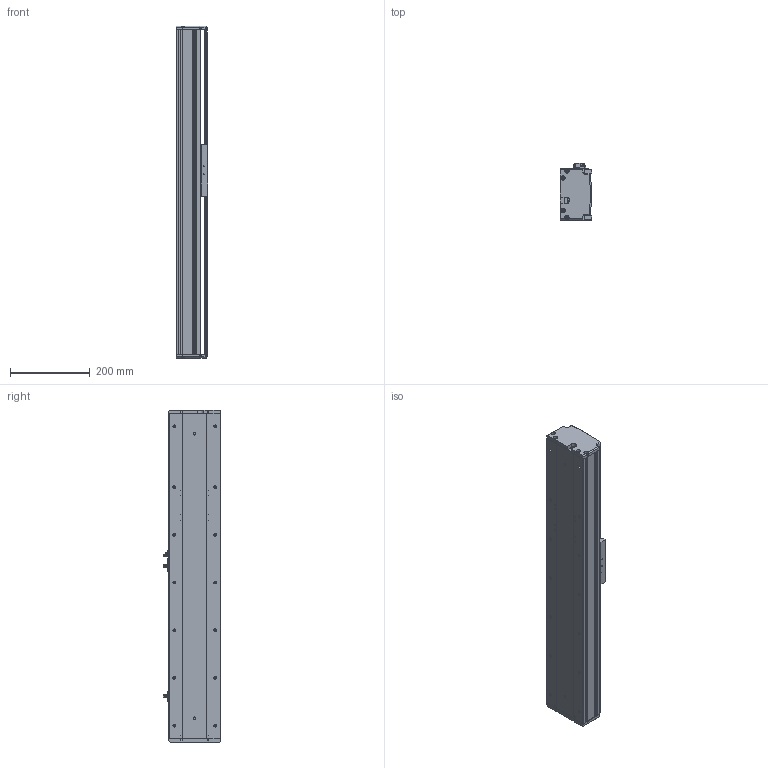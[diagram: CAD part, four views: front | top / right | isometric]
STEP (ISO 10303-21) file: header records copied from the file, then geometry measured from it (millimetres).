
FILE_DESCRIPTION (( 'STEP AP214' ), '1' );
FILE_NAME ('KSD130S-P2010-S350-M-CM.STEP', '2019-09-10T06:35:13', ( '微软用户' ), ( '微软中国' ), 'SwSTEP 2.0', 'SolidWorks 2014', '' );
FILE_SCHEMA (( 'AUTOMOTIVE_DESIGN' ));
Length unit declared in the file: millimetre
Products named in the file (8): 130宽马达安装板半封闭-内装; U倰嫖萇EEㄜSX672; 覜茼え100遵圉猾敕; 130宽盖板半封闭丝杠内装-350行程; 130宽滚珠丝杆安装板半封闭-内装-20丝杆; 130宽端盖半封闭-内装; 130宽底板半封闭丝杠内装-350行程; KSD130S-P2010-S350-M-CM
Assembly tree (9 placements, depth 2):
  KSD130S-P2010-S350-M-CM
    130宽底板半封闭丝杠内装-350行程
    130宽端盖半封闭-内装
    130宽滚珠丝杆安装板半封闭-内装-20丝杆
    130宽盖板半封闭丝杠内装-350行程
    覜茼え100遵圉猾敕
    U倰嫖萇EEㄜSX672  x3
    130宽马达安装板半封闭-内装
Bounding box: 80 x 143.7 x 835 mm (x, y, z)
Volume: 2643990.6 mm3; surface area: 803132.2 mm2
Topology: 9 solids, 9 shells, 1023 faces, 2944 edges, 1878 vertices
Faces by surface type: cylinder 450, plane 439, cone 134
Entity records: 32282 total; most frequent: CARTESIAN_POINT 6111, DIRECTION 4710, ORIENTED_EDGE 4616, EDGE_CURVE 2308, AXIS2_PLACEMENT_3D 1701, VERTEX_POINT 1502, LINE 1308, VECTOR 1308
